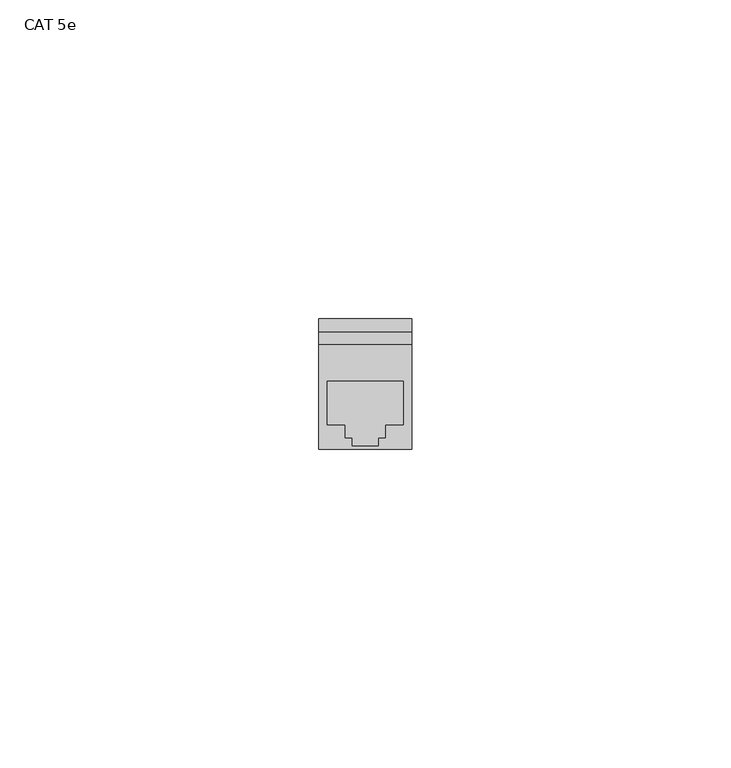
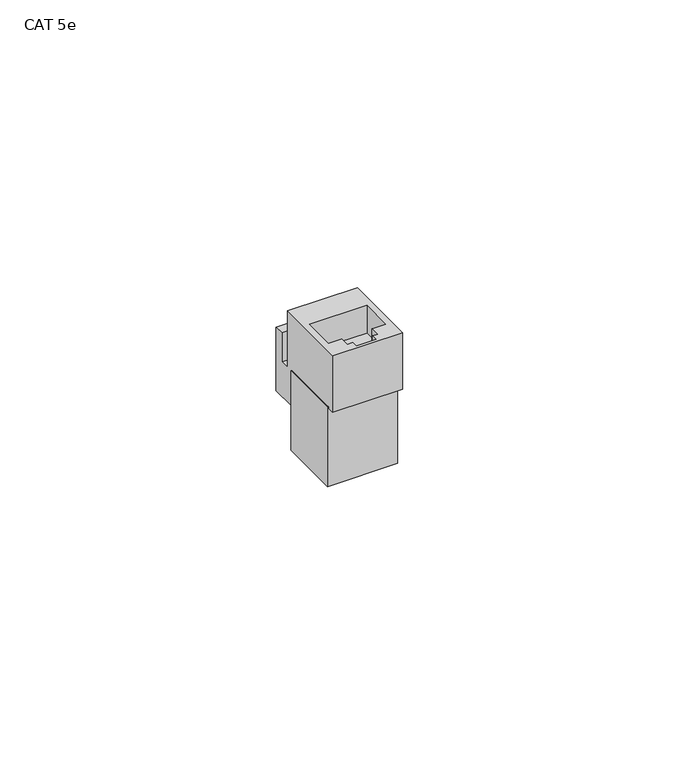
"""IFC4 building model written with IfcOpenShell, lengths in millimetres: electric appliance geometry, Data_Device-Network-Leviton-QuickPort-Connector-Copper : CAT 5e."""

from ifc_helpers import new_model, si_unit, frame, origin, place, context, project, spatial, polyline, outline, extrude, faceted_brep, source, transform, mapped, element, save


def cat_5e_e14e3988(model_context):
    return source(origin(), model_context, "Body", "SolidModel", [
        extrude(outline(polyline([(7.3025, 15.113), (7.3025, 1.8288), (-7.3025, 1.8288), (-7.3025, 15.113), (7.3025, 15.113)])), frame((0.0, 0.0, -29.972), z_axis=(0.0, 0.0, 1.0), x_axis=(1.0, 0.0, 0.0)), (0.0, 0.0, 1.0), 17.526),
        faceted_brep([(7.3025, 16.383, 0.0254), (-7.3025, 16.383, 0.0254), (-7.3025, 0.0, 0.0254), (7.3025, 0.0, 0.0254), (-5.9563, 10.6426, 0.0254), (5.9563, 10.6426, 0.0254), (5.9563, 3.81, 0.0254), (3.1496, 3.81, 0.0254), (3.1496, 1.8288, 0.0254), (2.032, 1.8288, 0.0254), (2.032, 0.5588, 0.0254), (-2.032, 0.5588, 0.0254), (-2.032, 1.8288, 0.0254), (-3.1496, 1.8288, 0.0254), (-3.1496, 3.81, 0.0254), (-5.9563, 3.81, 0.0254), (7.3025, 0.0, -12.446), (-7.3025, 0.0, -12.446), (-7.3025, 15.113, -12.446), (7.3025, 15.113, -12.446), (7.3025, 16.383, -12.446), (-7.3025, 16.383, -12.446), (-7.3025, 18.415, -12.446), (-7.3025, 18.415, -6.096), (-7.3025, 20.447, -6.096), (-7.3025, 20.447, -20.066), (-7.3025, 15.113, -20.066), (7.3025, 15.113, -20.066), (7.3025, 20.447, -20.066), (7.3025, 20.447, -6.096), (7.3025, 18.415, -6.096), (7.3025, 18.415, -12.446), (5.9563, 10.6426, -6.0706), (-5.9563, 10.6426, -6.0706), (-5.9563, 3.81, -6.0706), (-3.1496, 3.81, -6.0706), (-3.1496, 1.8288, -6.0706), (-2.032, 1.8288, -6.0706), (-2.032, 0.5588, -6.0706), (2.032, 0.5588, -6.0706), (2.032, 1.8288, -6.0706), (3.1496, 1.8288, -6.0706), (3.1496, 3.81, -6.0706), (5.9563, 3.81, -6.0706)], [[[0, 1, 2, 3], [4, 5, 6, 7, 8, 9, 10, 11, 12, 13, 14, 15]], [[16, 17, 18, 19]], [[1, 0, 20, 21]], [[2, 1, 21, 22, 23, 24, 25, 26, 18, 17]], [[3, 2, 17, 16]], [[0, 3, 16, 19, 27, 28, 29, 30, 31, 20]], [[31, 30, 23, 22]], [[31, 22, 21, 20]], [[27, 19, 18, 26]], [[28, 27, 26, 25]], [[29, 28, 25, 24]], [[30, 29, 24, 23]], [[32, 33, 34, 35, 36, 37, 38, 39, 40, 41, 42, 43]], [[33, 32, 5, 4]], [[34, 33, 4, 15]], [[35, 34, 15, 14]], [[36, 35, 14, 13]], [[37, 36, 13, 12]], [[38, 37, 12, 11]], [[39, 38, 11, 10]], [[40, 39, 10, 9]], [[41, 40, 9, 8]], [[42, 41, 8, 7]], [[43, 42, 7, 6]], [[32, 43, 6, 5]]]),
    ])


if __name__ == "__main__":
    model = new_model("IFC4")
    model_context = context("Model", 3, world=origin())
    ifc_project = project(units=[si_unit("LENGTHUNIT", "METRE", prefix="MILLI")], contexts=[model_context])
    site = spatial("IfcSite", under=ifc_project)
    building = spatial("IfcBuilding", under=site)
    placement = place(None, origin())
    cat_5e_shape = cat_5e_e14e3988(model_context)
    element("IfcElectricAppliance", 1, ObjectType="Data_Device-Network-Leviton-QuickPort-Connector-Copper : CAT 5e", at=placement, inside=building, context=model_context, shape_type="MappedRepresentation", body=[
        mapped(cat_5e_shape, transform((0.0, 0.0, 0.0), x_axis=(1.0, 0.0, 0.0), y_axis=(0.0, 1.0, 0.0), z_axis=(0.0, 0.0, 1.0))),
    ])
    save(model, "model.ifc")
